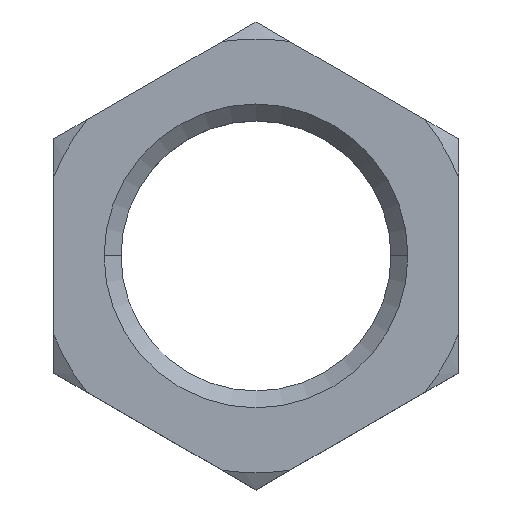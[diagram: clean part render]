
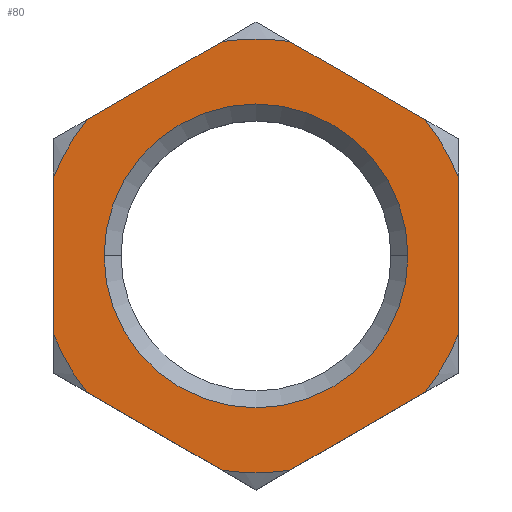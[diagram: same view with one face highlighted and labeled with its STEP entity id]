
A CAD part, top view. The second image highlights one B-rep face of the part: STEP entity #80.
In plain terms, the highlighted planar face has unit normal (0, 0, 1).
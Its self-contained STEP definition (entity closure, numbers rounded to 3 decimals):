
#4 = CIRCLE ( 'NONE', #655, 19.285 ) ;
#5 = VERTEX_POINT ( 'NONE', #634 ) ;
#14 = VERTEX_POINT ( 'NONE', #496 ) ;
#15 = ORIENTED_EDGE ( 'NONE', *, *, #260, .T. ) ;
#27 = VECTOR ( 'NONE', #680, 1000. ) ;
#28 = ORIENTED_EDGE ( 'NONE', *, *, #288, .T. ) ;
#29 = CARTESIAN_POINT ( 'NONE',  ( 0., 0., 5.45 ) ) ;
#43 = DIRECTION ( 'NONE',  ( 0.866, 0.5, 0. ) ) ;
#45 = VERTEX_POINT ( 'NONE', #668 ) ;
#49 = AXIS2_PLACEMENT_3D ( 'NONE', #213, #203, #438 ) ;
#52 = LINE ( 'NONE', #605, #257 ) ;
#59 = DIRECTION ( 'NONE',  ( -1., 0., 0. ) ) ;
#75 = EDGE_LOOP ( 'NONE', ( #766, #245, #719, #723, #145, #28, #630, #229, #902, #15, #764, #871 ) ) ;
#80 = ADVANCED_FACE ( 'NONE', ( #563, #637 ), #582, .T. ) ;
#92 = DIRECTION ( 'NONE',  ( 0., 0., -1. ) ) ;
#97 = CARTESIAN_POINT ( 'NONE',  ( 0., 0., 5.45 ) ) ;
#100 = DIRECTION ( 'NONE',  ( -1., 0., 0. ) ) ;
#105 = DIRECTION ( 'NONE',  ( -1., 0., 0. ) ) ;
#126 = EDGE_LOOP ( 'NONE', ( #320, #312 ) ) ;
#129 = CIRCLE ( 'NONE', #49, 19.285 ) ;
#140 = CARTESIAN_POINT ( 'NONE',  ( -13.5, 0., 5.45 ) ) ;
#143 = LINE ( 'NONE', #388, #27 ) ;
#145 = ORIENTED_EDGE ( 'NONE', *, *, #352, .F. ) ;
#146 = DIRECTION ( 'NONE',  ( 1., 0., 0. ) ) ;
#166 = LINE ( 'NONE', #385, #720 ) ;
#169 = VERTEX_POINT ( 'NONE', #233 ) ;
#171 = DIRECTION ( 'NONE',  ( 1., 0., 0. ) ) ;
#182 = EDGE_CURVE ( 'NONE', #679, #369, #254, .T. ) ;
#183 = AXIS2_PLACEMENT_3D ( 'NONE', #398, #888, #105 ) ;
#203 = DIRECTION ( 'NONE',  ( 0., 0., -1. ) ) ;
#206 = LINE ( 'NONE', #592, #287 ) ;
#213 = CARTESIAN_POINT ( 'NONE',  ( 0., 0., 5.45 ) ) ;
#229 = ORIENTED_EDGE ( 'NONE', *, *, #722, .T. ) ;
#230 = LINE ( 'NONE', #785, #765 ) ;
#231 = VERTEX_POINT ( 'NONE', #875 ) ;
#233 = CARTESIAN_POINT ( 'NONE',  ( -14.994, -12.128, 5.45 ) ) ;
#245 = ORIENTED_EDGE ( 'NONE', *, *, #387, .T. ) ;
#247 = CARTESIAN_POINT ( 'NONE',  ( 0., 0., 5.45 ) ) ;
#254 = CIRCLE ( 'NONE', #781, 13.5 ) ;
#257 = VECTOR ( 'NONE', #460, 1000. ) ;
#260 = EDGE_CURVE ( 'NONE', #169, #393, #166, .T. ) ;
#263 = CARTESIAN_POINT ( 'NONE',  ( 18., -6.921, 5.45 ) ) ;
#277 = AXIS2_PLACEMENT_3D ( 'NONE', #472, #462, #100 ) ;
#282 = AXIS2_PLACEMENT_3D ( 'NONE', #29, #528, #303 ) ;
#284 = CARTESIAN_POINT ( 'NONE',  ( 0., 0., 5.45 ) ) ;
#287 = VECTOR ( 'NONE', #43, 1000. ) ;
#288 = EDGE_CURVE ( 'NONE', #650, #14, #52, .T. ) ;
#292 = DIRECTION ( 'NONE',  ( 0., 0., -1. ) ) ;
#303 = DIRECTION ( 'NONE',  ( 1., 0., 0. ) ) ;
#306 = EDGE_CURVE ( 'NONE', #450, #895, #143, .T. ) ;
#307 = DIRECTION ( 'NONE',  ( 0., 0., -1. ) ) ;
#311 = LINE ( 'NONE', #624, #741 ) ;
#312 = ORIENTED_EDGE ( 'NONE', *, *, #487, .T. ) ;
#315 = AXIS2_PLACEMENT_3D ( 'NONE', #97, #92, #887 ) ;
#320 = ORIENTED_EDGE ( 'NONE', *, *, #182, .T. ) ;
#323 = VERTEX_POINT ( 'NONE', #886 ) ;
#325 = EDGE_CURVE ( 'NONE', #231, #353, #206, .T. ) ;
#329 = DIRECTION ( 'NONE',  ( -1., 0., 0. ) ) ;
#347 = CARTESIAN_POINT ( 'NONE',  ( 0., 0., 5.45 ) ) ;
#352 = EDGE_CURVE ( 'NONE', #650, #895, #129, .T. ) ;
#353 = VERTEX_POINT ( 'NONE', #656 ) ;
#369 = VERTEX_POINT ( 'NONE', #140 ) ;
#372 = AXIS2_PLACEMENT_3D ( 'NONE', #347, #416, #59 ) ;
#376 = CARTESIAN_POINT ( 'NONE',  ( 3.006, 19.049, 5.45 ) ) ;
#385 = CARTESIAN_POINT ( 'NONE',  ( -18., -10.392, 5.45 ) ) ;
#387 = EDGE_CURVE ( 'NONE', #772, #323, #230, .T. ) ;
#388 = CARTESIAN_POINT ( 'NONE',  ( 18., 10.392, 5.45 ) ) ;
#393 = VERTEX_POINT ( 'NONE', #435 ) ;
#398 = CARTESIAN_POINT ( 'NONE',  ( 0., 0., 5.45 ) ) ;
#405 = CIRCLE ( 'NONE', #315, 19.285 ) ;
#416 = DIRECTION ( 'NONE',  ( 0., 0., -1. ) ) ;
#435 = CARTESIAN_POINT ( 'NONE',  ( -3.006, -19.049, 5.45 ) ) ;
#438 = DIRECTION ( 'NONE',  ( -1., 0., 0. ) ) ;
#450 = VERTEX_POINT ( 'NONE', #593 ) ;
#460 = DIRECTION ( 'NONE',  ( -0.866, -0.5, 0. ) ) ;
#462 = DIRECTION ( 'NONE',  ( 0., 0., -1. ) ) ;
#472 = CARTESIAN_POINT ( 'NONE',  ( 0., 0., 5.45 ) ) ;
#487 = EDGE_CURVE ( 'NONE', #369, #679, #556, .T. ) ;
#496 = CARTESIAN_POINT ( 'NONE',  ( -14.994, 12.128, 5.45 ) ) ;
#527 = CARTESIAN_POINT ( 'NONE',  ( 0., 0., 5.45 ) ) ;
#528 = DIRECTION ( 'NONE',  ( 0., 0., -1. ) ) ;
#540 = CARTESIAN_POINT ( 'NONE',  ( -3.006, 19.049, 5.45 ) ) ;
#556 = CIRCLE ( 'NONE', #282, 13.5 ) ;
#557 = EDGE_CURVE ( 'NONE', #5, #14, #676, .T. ) ;
#563 = FACE_BOUND ( 'NONE', #126, .T. ) ;
#577 = CIRCLE ( 'NONE', #277, 19.285 ) ;
#582 = PLANE ( 'NONE',  #737 ) ;
#583 = EDGE_CURVE ( 'NONE', #169, #45, #577, .T. ) ;
#592 = CARTESIAN_POINT ( 'NONE',  ( 0., -20.785, 5.45 ) ) ;
#593 = CARTESIAN_POINT ( 'NONE',  ( 14.994, 12.128, 5.45 ) ) ;
#603 = EDGE_CURVE ( 'NONE', #450, #323, #405, .T. ) ;
#605 = CARTESIAN_POINT ( 'NONE',  ( 0., 20.785, 5.45 ) ) ;
#624 = CARTESIAN_POINT ( 'NONE',  ( -18., 10.392, 5.45 ) ) ;
#630 = ORIENTED_EDGE ( 'NONE', *, *, #557, .F. ) ;
#634 = CARTESIAN_POINT ( 'NONE',  ( -18., 6.921, 5.45 ) ) ;
#637 = FACE_OUTER_BOUND ( 'NONE', #75, .T. ) ;
#650 = VERTEX_POINT ( 'NONE', #540 ) ;
#655 = AXIS2_PLACEMENT_3D ( 'NONE', #284, #292, #329 ) ;
#656 = CARTESIAN_POINT ( 'NONE',  ( 14.994, -12.128, 5.45 ) ) ;
#668 = CARTESIAN_POINT ( 'NONE',  ( -18., -6.921, 5.45 ) ) ;
#673 = DIRECTION ( 'NONE',  ( 0.866, -0.5, 0. ) ) ;
#676 = CIRCLE ( 'NONE', #183, 19.285 ) ;
#679 = VERTEX_POINT ( 'NONE', #831 ) ;
#680 = DIRECTION ( 'NONE',  ( -0.866, 0.5, 0. ) ) ;
#714 = DIRECTION ( 'NONE',  ( 0., 0., 1. ) ) ;
#719 = ORIENTED_EDGE ( 'NONE', *, *, #603, .F. ) ;
#720 = VECTOR ( 'NONE', #673, 1000. ) ;
#722 = EDGE_CURVE ( 'NONE', #5, #45, #311, .T. ) ;
#723 = ORIENTED_EDGE ( 'NONE', *, *, #306, .T. ) ;
#728 = DIRECTION ( 'NONE',  ( 0., 1., 0. ) ) ;
#737 = AXIS2_PLACEMENT_3D ( 'NONE', #527, #714, #146 ) ;
#741 = VECTOR ( 'NONE', #768, 1000. ) ;
#764 = ORIENTED_EDGE ( 'NONE', *, *, #797, .F. ) ;
#765 = VECTOR ( 'NONE', #728, 1000. ) ;
#766 = ORIENTED_EDGE ( 'NONE', *, *, #770, .F. ) ;
#768 = DIRECTION ( 'NONE',  ( 0., -1., 0. ) ) ;
#770 = EDGE_CURVE ( 'NONE', #772, #353, #903, .T. ) ;
#772 = VERTEX_POINT ( 'NONE', #263 ) ;
#781 = AXIS2_PLACEMENT_3D ( 'NONE', #247, #307, #171 ) ;
#785 = CARTESIAN_POINT ( 'NONE',  ( 18., -10.392, 5.45 ) ) ;
#797 = EDGE_CURVE ( 'NONE', #231, #393, #4, .T. ) ;
#831 = CARTESIAN_POINT ( 'NONE',  ( 13.5, 0., 5.45 ) ) ;
#871 = ORIENTED_EDGE ( 'NONE', *, *, #325, .T. ) ;
#875 = CARTESIAN_POINT ( 'NONE',  ( 3.006, -19.049, 5.45 ) ) ;
#886 = CARTESIAN_POINT ( 'NONE',  ( 18., 6.921, 5.45 ) ) ;
#887 = DIRECTION ( 'NONE',  ( -1., 0., 0. ) ) ;
#888 = DIRECTION ( 'NONE',  ( 0., 0., -1. ) ) ;
#895 = VERTEX_POINT ( 'NONE', #376 ) ;
#902 = ORIENTED_EDGE ( 'NONE', *, *, #583, .F. ) ;
#903 = CIRCLE ( 'NONE', #372, 19.285 ) ;
